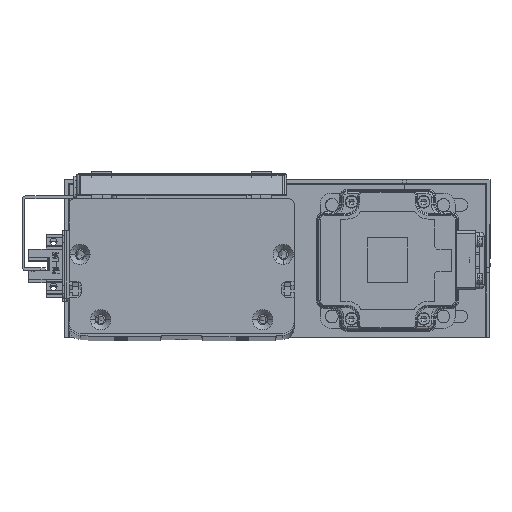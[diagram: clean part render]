
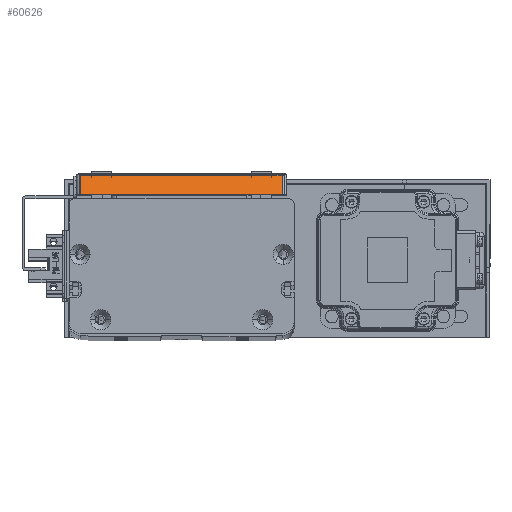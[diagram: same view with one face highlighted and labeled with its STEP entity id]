
A CAD part, top view. The second image highlights one B-rep face of the part: STEP entity #60626.
In plain terms, the highlighted planar face has unit normal (0, 0.707, 0.707) as drawn and (-0.707, 0, -0.707) by its records, which use the part's own axes.
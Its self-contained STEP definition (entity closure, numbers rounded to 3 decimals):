
#1446 = LINE ( 'NONE', #48281, #46762 ) ;
#9077 = LINE ( 'NONE', #45183, #51001 ) ;
#9128 = CARTESIAN_POINT ( 'NONE',  ( -57.298, 93.4, -5.102 ) ) ;
#13198 = VERTEX_POINT ( 'NONE', #55349 ) ;
#13553 = LINE ( 'NONE', #9128, #15259 ) ;
#14612 = DIRECTION ( 'NONE',  ( 0., -1., 0. ) ) ;
#15259 = VECTOR ( 'NONE', #14612, 1000. ) ;
#16734 = CARTESIAN_POINT ( 'NONE',  ( -66.5, 1.7, 4.1 ) ) ;
#17170 = DIRECTION ( 'NONE',  ( 0.707, 0., -0.707 ) ) ;
#17196 = EDGE_LOOP ( 'NONE', ( #56996, #26836, #28672, #35925 ) ) ;
#17902 = DIRECTION ( 'NONE',  ( 0., 1., 0. ) ) ;
#22793 = CARTESIAN_POINT ( 'NONE',  ( -57.298, 1.7, -5.102 ) ) ;
#25234 = CARTESIAN_POINT ( 'NONE',  ( -68., 93.4, 5.6 ) ) ;
#26836 = ORIENTED_EDGE ( 'NONE', *, *, #61529, .T. ) ;
#28672 = ORIENTED_EDGE ( 'NONE', *, *, #61339, .T. ) ;
#31689 = VECTOR ( 'NONE', #62829, 1000. ) ;
#33975 = EDGE_CURVE ( 'NONE', #42284, #48258, #13553, .T. ) ;
#35925 = ORIENTED_EDGE ( 'NONE', *, *, #33975, .T. ) ;
#40934 = CARTESIAN_POINT ( 'NONE',  ( -57.298, 91.7, -5.102 ) ) ;
#42284 = VERTEX_POINT ( 'NONE', #40934 ) ;
#45183 = CARTESIAN_POINT ( 'NONE',  ( -66.5, 93.4, 4.1 ) ) ;
#46614 = CARTESIAN_POINT ( 'NONE',  ( -68., 1.7, 5.6 ) ) ;
#46762 = VECTOR ( 'NONE', #17170, 1000. ) ;
#47155 = FACE_OUTER_BOUND ( 'NONE', #17196, .T. ) ;
#47975 = LINE ( 'NONE', #46614, #31689 ) ;
#48258 = VERTEX_POINT ( 'NONE', #22793 ) ;
#48281 = CARTESIAN_POINT ( 'NONE',  ( -68., 91.7, 5.6 ) ) ;
#49111 = AXIS2_PLACEMENT_3D ( 'NONE', #25234, #64939, #68979 ) ;
#49254 = EDGE_CURVE ( 'NONE', #48258, #69388, #47975, .T. ) ;
#51001 = VECTOR ( 'NONE', #17902, 1000. ) ;
#55349 = CARTESIAN_POINT ( 'NONE',  ( -66.5, 91.7, 4.1 ) ) ;
#56996 = ORIENTED_EDGE ( 'NONE', *, *, #49254, .T. ) ;
#58026 = PLANE ( 'NONE',  #49111 ) ;
#60626 = ADVANCED_FACE ( 'NONE', ( #47155 ), #58026, .T. ) ;
#61339 = EDGE_CURVE ( 'NONE', #13198, #42284, #1446, .T. ) ;
#61529 = EDGE_CURVE ( 'NONE', #69388, #13198, #9077, .T. ) ;
#62829 = DIRECTION ( 'NONE',  ( -0.707, 0., 0.707 ) ) ;
#64939 = DIRECTION ( 'NONE',  ( -0.707, 0., -0.707 ) ) ;
#68979 = DIRECTION ( 'NONE',  ( -0.707, 0., 0.707 ) ) ;
#69388 = VERTEX_POINT ( 'NONE', #16734 ) ;
